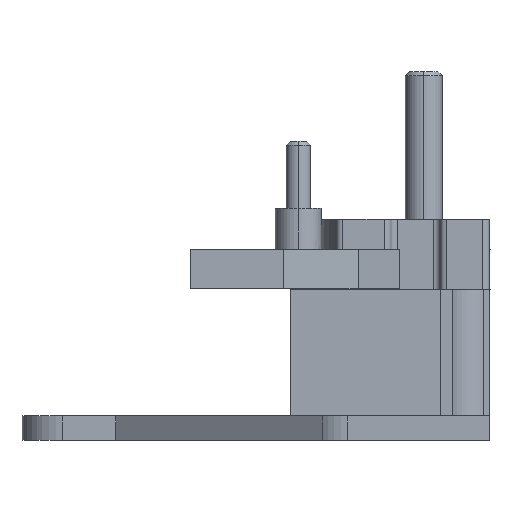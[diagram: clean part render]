
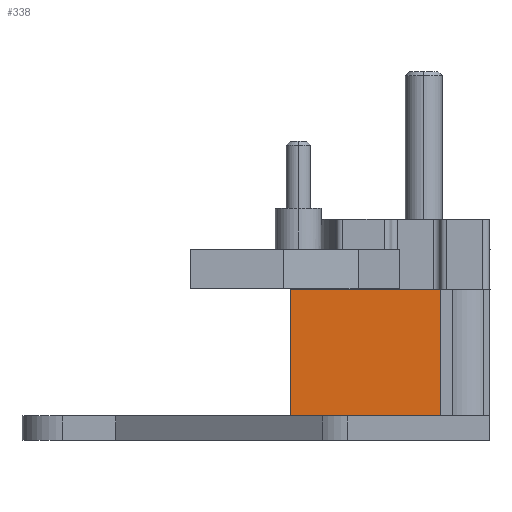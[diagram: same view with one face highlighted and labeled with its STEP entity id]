
A CAD part, left-side view. The second image highlights one B-rep face of the part: STEP entity #338.
In plain terms, the highlighted planar face has unit normal (-1, 0, 0).
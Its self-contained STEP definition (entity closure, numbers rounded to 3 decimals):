
#130 = EDGE_CURVE ( 'NONE', #1316, #1361, #2573, .T. ) ;
#133 = EDGE_CURVE ( 'NONE', #1293, #1363, #2584, .T. ) ;
#135 = EDGE_CURVE ( 'NONE', #1293, #1316, #2589, .T. ) ;
#164 = EDGE_CURVE ( 'NONE', #1361, #1363, #2683, .T. ) ;
#338 = ADVANCED_FACE ( 'NONE', ( #2771 ), #1665, .F. ) ;
#656 = EDGE_LOOP ( 'NONE', ( #2381, #2383, #2385, #2386 ) ) ;
#1293 = VERTEX_POINT ( 'NONE', #3442 ) ;
#1316 = VERTEX_POINT ( 'NONE', #3387 ) ;
#1361 = VERTEX_POINT ( 'NONE', #3454 ) ;
#1363 = VERTEX_POINT ( 'NONE', #3470 ) ;
#1662 = DIRECTION ( 'NONE',  ( 0., 0., -1. ) ) ;
#1663 = DIRECTION ( 'NONE',  ( 1., 0., 0. ) ) ;
#1664 = CARTESIAN_POINT ( 'NONE',  ( -8.3, -25.2, -118.77 ) ) ;
#1665 = PLANE ( 'NONE',  #3013 ) ;
#1821 = DIRECTION ( 'NONE',  ( 0., 1., 0. ) ) ;
#1822 = CARTESIAN_POINT ( 'NONE',  ( -8.3, -25.2, 18.4 ) ) ;
#1924 = DIRECTION ( 'NONE',  ( 0., -1., 0. ) ) ;
#1925 = CARTESIAN_POINT ( 'NONE',  ( -8.3, -25.2, 3. ) ) ;
#1928 = DIRECTION ( 'NONE',  ( 0., 0., 1. ) ) ;
#1929 = CARTESIAN_POINT ( 'NONE',  ( -8.3, -25.2, -118.77 ) ) ;
#1934 = DIRECTION ( 'NONE',  ( 0., 0., 1. ) ) ;
#1935 = CARTESIAN_POINT ( 'NONE',  ( -8.3, -43.5, -118.77 ) ) ;
#2381 = ORIENTED_EDGE ( 'NONE', *, *, #135, .T. ) ;
#2383 = ORIENTED_EDGE ( 'NONE', *, *, #130, .T. ) ;
#2385 = ORIENTED_EDGE ( 'NONE', *, *, #164, .T. ) ;
#2386 = ORIENTED_EDGE ( 'NONE', *, *, #133, .F. ) ;
#2573 = LINE ( 'NONE', #1935, #2575 ) ;
#2575 = VECTOR ( 'NONE', #1934, 1000. ) ;
#2584 = LINE ( 'NONE', #1929, #2586 ) ;
#2586 = VECTOR ( 'NONE', #1928, 1000. ) ;
#2589 = LINE ( 'NONE', #1925, #2591 ) ;
#2591 = VECTOR ( 'NONE', #1924, 1000. ) ;
#2683 = LINE ( 'NONE', #1822, #2685 ) ;
#2685 = VECTOR ( 'NONE', #1821, 1000. ) ;
#2771 = FACE_OUTER_BOUND ( 'NONE', #656, .T. ) ;
#3013 = AXIS2_PLACEMENT_3D ( 'NONE', #1664, #1663, #1662 ) ;
#3387 = CARTESIAN_POINT ( 'NONE',  ( -8.3, -43.5, 3. ) ) ;
#3442 = CARTESIAN_POINT ( 'NONE',  ( -8.3, -25.2, 3. ) ) ;
#3454 = CARTESIAN_POINT ( 'NONE',  ( -8.3, -43.5, 18.4 ) ) ;
#3470 = CARTESIAN_POINT ( 'NONE',  ( -8.3, -25.2, 18.4 ) ) ;
